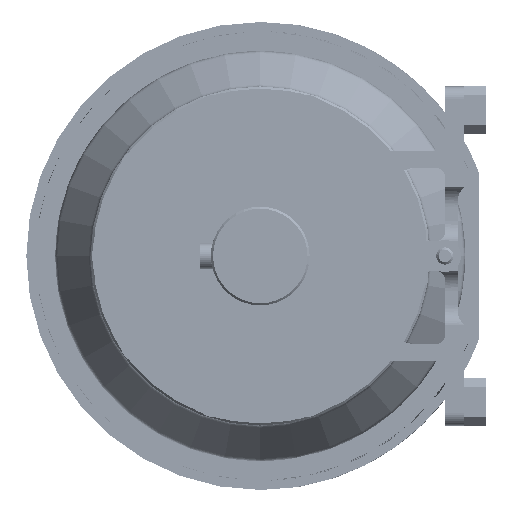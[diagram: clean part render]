
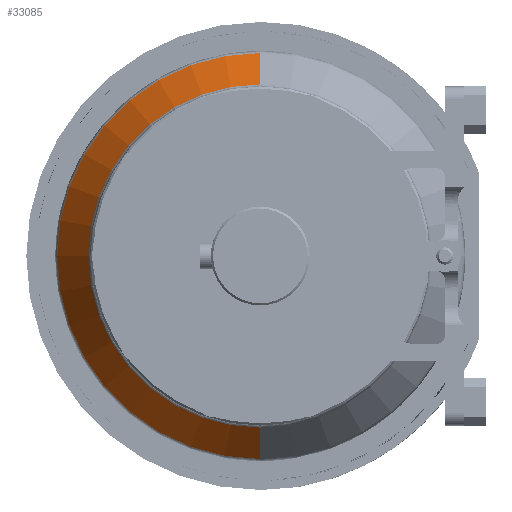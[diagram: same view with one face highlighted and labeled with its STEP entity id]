
A CAD part, left-side view. The second image highlights one B-rep face of the part: STEP entity #33085.
In plain terms, the highlighted conical face has half-angle 32.576 degrees and reference radius 47.75 mm.
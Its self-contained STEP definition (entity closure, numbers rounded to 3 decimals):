
#1400 = DIRECTION ( 'NONE',  ( 0., 0., -1. ) ) ;
#1404 = DIRECTION ( 'NONE',  ( 1., 0., 0. ) ) ;
#1406 = CARTESIAN_POINT ( 'NONE',  ( 28.5, 0., 0. ) ) ;
#7922 = ORIENTED_EDGE ( 'NONE', *, *, #55799, .T. ) ;
#11013 = AXIS2_PLACEMENT_3D ( 'NONE', #1406, #1404, #1400 ) ;
#11393 = AXIS2_PLACEMENT_3D ( 'NONE', #51349, #51351, #51353 ) ;
#18366 = CIRCLE ( 'NONE', #26897, 47.278 ) ;
#21949 = EDGE_LOOP ( 'NONE', ( #74077, #7922, #74096, #74086 ) ) ;
#24196 = VERTEX_POINT ( 'NONE', #32902 ) ;
#24228 = VERTEX_POINT ( 'NONE', #32924 ) ;
#24299 = VERTEX_POINT ( 'NONE', #32977 ) ;
#24328 = VERTEX_POINT ( 'NONE', #32996 ) ;
#25283 = CARTESIAN_POINT ( 'NONE',  ( 27.761, 0., 0. ) ) ;
#25285 = DIRECTION ( 'NONE',  ( -1., 0., 0. ) ) ;
#25287 = DIRECTION ( 'NONE',  ( 0., 0., 1. ) ) ;
#26897 = AXIS2_PLACEMENT_3D ( 'NONE', #25283, #25285, #25287 ) ;
#32902 = CARTESIAN_POINT ( 'NONE',  ( 16.326, 0., -39.972 ) ) ;
#32924 = CARTESIAN_POINT ( 'NONE',  ( 16.326, 0., 39.972 ) ) ;
#32977 = CARTESIAN_POINT ( 'NONE',  ( 27.761, 0., -47.278 ) ) ;
#32996 = CARTESIAN_POINT ( 'NONE',  ( 27.761, 0., 47.278 ) ) ;
#33085 = ADVANCED_FACE ( 'NONE', ( #47566 ), #47597, .T. ) ;
#47566 = FACE_OUTER_BOUND ( 'NONE', #21949, .T. ) ;
#47597 = CONICAL_SURFACE ( 'NONE', #11013, 47.75, 0.569 ) ;
#48799 = LINE ( 'NONE', #51330, #48805 ) ;
#48800 = LINE ( 'NONE', #51338, #48803 ) ;
#48802 = CIRCLE ( 'NONE', #11393, 39.972 ) ;
#48803 = VECTOR ( 'NONE', #51341, 1000. ) ;
#48805 = VECTOR ( 'NONE', #51343, 1000. ) ;
#51330 = CARTESIAN_POINT ( 'NONE',  ( 28.5, 0., 47.75 ) ) ;
#51338 = CARTESIAN_POINT ( 'NONE',  ( 28.5, 0., -47.75 ) ) ;
#51341 = DIRECTION ( 'NONE',  ( 0.843, 0., -0.538 ) ) ;
#51343 = DIRECTION ( 'NONE',  ( 0.843, 0., 0.538 ) ) ;
#51349 = CARTESIAN_POINT ( 'NONE',  ( 16.326, 0., 0. ) ) ;
#51351 = DIRECTION ( 'NONE',  ( 1., 0., 0. ) ) ;
#51353 = DIRECTION ( 'NONE',  ( 0., 0., -1. ) ) ;
#55798 = EDGE_CURVE ( 'NONE', #24196, #24299, #48800, .T. ) ;
#55799 = EDGE_CURVE ( 'NONE', #24228, #24328, #48799, .T. ) ;
#55800 = EDGE_CURVE ( 'NONE', #24196, #24228, #48802, .T. ) ;
#66516 = EDGE_CURVE ( 'NONE', #24328, #24299, #18366, .T. ) ;
#74077 = ORIENTED_EDGE ( 'NONE', *, *, #55800, .T. ) ;
#74086 = ORIENTED_EDGE ( 'NONE', *, *, #55798, .F. ) ;
#74096 = ORIENTED_EDGE ( 'NONE', *, *, #66516, .T. ) ;
